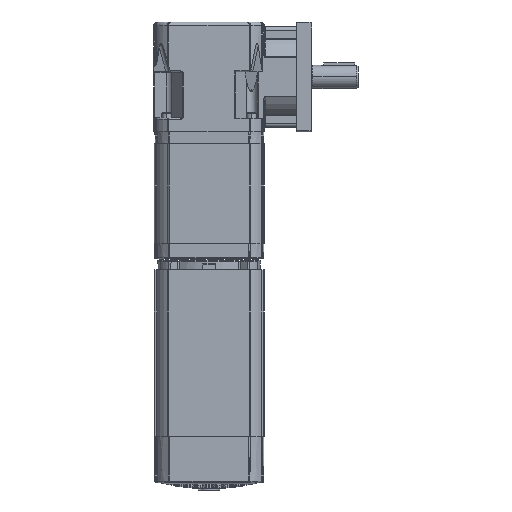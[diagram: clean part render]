
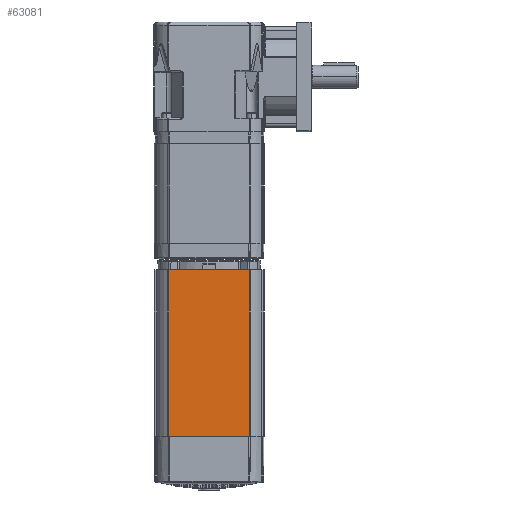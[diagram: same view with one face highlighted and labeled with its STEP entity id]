
A CAD part, front view. The second image highlights one B-rep face of the part: STEP entity #63081.
In plain terms, the highlighted planar face has unit normal (0, -1, 0).
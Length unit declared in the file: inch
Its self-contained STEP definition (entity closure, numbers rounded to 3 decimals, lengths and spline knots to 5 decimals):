
#1618 = CARTESIAN_POINT ( 'NONE',  ( -1.305, -1.7765, -10.414 ) ) ;
#2387 = EDGE_CURVE ( 'NONE', #41729, #75842, #40764, .T. ) ;
#7507 = ORIENTED_EDGE ( 'NONE', *, *, #64236, .T. ) ;
#8398 = DIRECTION ( 'NONE',  ( 0., -1., 0. ) ) ;
#12675 = CARTESIAN_POINT ( 'NONE',  ( -1.305, -1.7765, -4.078 ) ) ;
#13445 = DIRECTION ( 'NONE',  ( 1., 0., 0. ) ) ;
#15144 = CARTESIAN_POINT ( 'NONE',  ( 1.305, -1.7765, -9.473 ) ) ;
#15207 = CARTESIAN_POINT ( 'NONE',  ( 1.325, -1.7765, -4.078 ) ) ;
#20239 = DIRECTION ( 'NONE',  ( 0., 0., -1. ) ) ;
#20971 = LINE ( 'NONE', #1618, #50849 ) ;
#26536 = ORIENTED_EDGE ( 'NONE', *, *, #65336, .T. ) ;
#34447 = CARTESIAN_POINT ( 'NONE',  ( -1.305, -1.7765, -9.473 ) ) ;
#35402 = LINE ( 'NONE', #67815, #66460 ) ;
#36942 = FACE_OUTER_BOUND ( 'NONE', #50320, .T. ) ;
#38591 = PLANE ( 'NONE',  #39994 ) ;
#39701 = CARTESIAN_POINT ( 'NONE',  ( 1.305, -1.7765, -10.414 ) ) ;
#39994 = AXIS2_PLACEMENT_3D ( 'NONE', #44864, #8398, #50660 ) ;
#40764 = LINE ( 'NONE', #15207, #69830 ) ;
#41729 = VERTEX_POINT ( 'NONE', #12675 ) ;
#42778 = ORIENTED_EDGE ( 'NONE', *, *, #64795, .F. ) ;
#43024 = VECTOR ( 'NONE', #51745, 39.37008 ) ;
#44864 = CARTESIAN_POINT ( 'NONE',  ( 1.325, -1.7765, -10.414 ) ) ;
#50320 = EDGE_LOOP ( 'NONE', ( #42778, #7507, #74579, #26536 ) ) ;
#50660 = DIRECTION ( 'NONE',  ( 0., 0., -1. ) ) ;
#50849 = VECTOR ( 'NONE', #20239, 39.37008 ) ;
#51745 = DIRECTION ( 'NONE',  ( 0., 0., 1. ) ) ;
#56435 = DIRECTION ( 'NONE',  ( -1., 0., 0. ) ) ;
#58468 = LINE ( 'NONE', #39701, #43024 ) ;
#63081 = ADVANCED_FACE ( 'NONE', ( #36942 ), #38591, .T. ) ;
#64236 = EDGE_CURVE ( 'NONE', #75107, #75842, #58468, .T. ) ;
#64795 = EDGE_CURVE ( 'NONE', #75107, #70260, #35402, .T. ) ;
#65336 = EDGE_CURVE ( 'NONE', #41729, #70260, #20971, .T. ) ;
#66460 = VECTOR ( 'NONE', #56435, 39.37008 ) ;
#67815 = CARTESIAN_POINT ( 'NONE',  ( 1.305, -1.7765, -9.473 ) ) ;
#69830 = VECTOR ( 'NONE', #13445, 39.37008 ) ;
#70260 = VERTEX_POINT ( 'NONE', #34447 ) ;
#71027 = CARTESIAN_POINT ( 'NONE',  ( 1.305, -1.7765, -4.078 ) ) ;
#74579 = ORIENTED_EDGE ( 'NONE', *, *, #2387, .F. ) ;
#75107 = VERTEX_POINT ( 'NONE', #15144 ) ;
#75842 = VERTEX_POINT ( 'NONE', #71027 ) ;
